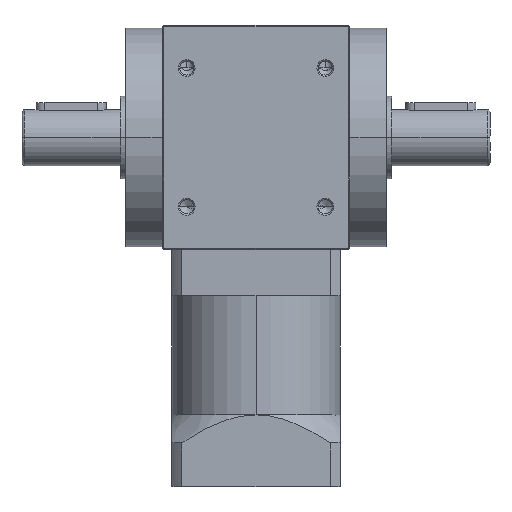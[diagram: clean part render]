
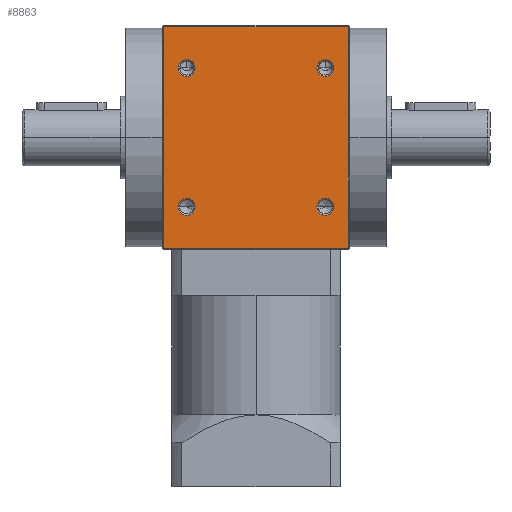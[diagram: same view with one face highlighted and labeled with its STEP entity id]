
A CAD part, top view. The second image highlights one B-rep face of the part: STEP entity #8863.
In plain terms, the highlighted planar face has unit normal (0, 0, 1).
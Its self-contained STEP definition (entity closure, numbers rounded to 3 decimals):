
#185 = EDGE_LOOP ( 'NONE', ( #4110, #7010 ) ) ;
#260 = ORIENTED_EDGE ( 'NONE', *, *, #1578, .F. ) ;
#367 = FACE_BOUND ( 'NONE', #7555, .T. ) ;
#398 = CARTESIAN_POINT ( 'NONE',  ( 24.75, 24.75, 40. ) ) ;
#512 = AXIS2_PLACEMENT_3D ( 'NONE', #3569, #8914, #4349 ) ;
#673 = CARTESIAN_POINT ( 'NONE',  ( -21.75, 24.75, 40. ) ) ;
#807 = AXIS2_PLACEMENT_3D ( 'NONE', #3105, #2394, #5803 ) ;
#865 = DIRECTION ( 'NONE',  ( 1., 0., 0. ) ) ;
#868 = EDGE_CURVE ( 'NONE', #7225, #5175, #1045, .T. ) ;
#884 = VERTEX_POINT ( 'NONE', #7356 ) ;
#898 = ORIENTED_EDGE ( 'NONE', *, *, #868, .F. ) ;
#919 = EDGE_LOOP ( 'NONE', ( #4624, #4115 ) ) ;
#1045 = CIRCLE ( 'NONE', #4986, 3. ) ;
#1155 = DIRECTION ( 'NONE',  ( 1., 0., 0. ) ) ;
#1185 = CARTESIAN_POINT ( 'NONE',  ( 33.5, 40., 40. ) ) ;
#1329 = EDGE_CURVE ( 'NONE', #9575, #5781, #6537, .T. ) ;
#1477 = DIRECTION ( 'NONE',  ( -1., 0., 0. ) ) ;
#1518 = CARTESIAN_POINT ( 'NONE',  ( 24.75, 24.75, 40. ) ) ;
#1578 = EDGE_CURVE ( 'NONE', #5232, #6303, #2733, .T. ) ;
#1893 = EDGE_CURVE ( 'NONE', #5781, #9575, #8335, .T. ) ;
#1964 = DIRECTION ( 'NONE',  ( -1., 0., 0. ) ) ;
#2025 = ORIENTED_EDGE ( 'NONE', *, *, #3774, .F. ) ;
#2058 = ORIENTED_EDGE ( 'NONE', *, *, #5536, .F. ) ;
#2271 = CARTESIAN_POINT ( 'NONE',  ( 27.75, 24.75, 40. ) ) ;
#2286 = DIRECTION ( 'NONE',  ( 1., 0., 0. ) ) ;
#2347 = ORIENTED_EDGE ( 'NONE', *, *, #7696, .F. ) ;
#2378 = CARTESIAN_POINT ( 'NONE',  ( 33.5, 39.5, 40. ) ) ;
#2394 = DIRECTION ( 'NONE',  ( 0., 0., 1. ) ) ;
#2396 = FACE_BOUND ( 'NONE', #185, .T. ) ;
#2685 = EDGE_CURVE ( 'NONE', #7770, #8493, #6600, .T. ) ;
#2733 = CIRCLE ( 'NONE', #6590, 3. ) ;
#2872 = VECTOR ( 'NONE', #4108, 1000. ) ;
#2920 = CARTESIAN_POINT ( 'NONE',  ( -24.75, 24.75, 40. ) ) ;
#2932 = VECTOR ( 'NONE', #1477, 1000. ) ;
#2955 = DIRECTION ( 'NONE',  ( 1., 0., 0. ) ) ;
#2960 = DIRECTION ( 'NONE',  ( 1., 0., 0. ) ) ;
#3105 = CARTESIAN_POINT ( 'NONE',  ( -24.75, -24.75, 40. ) ) ;
#3225 = CARTESIAN_POINT ( 'NONE',  ( 21.75, 24.75, 40. ) ) ;
#3328 = CARTESIAN_POINT ( 'NONE',  ( 33., 40., 40. ) ) ;
#3569 = CARTESIAN_POINT ( 'NONE',  ( 24.75, -24.75, 40. ) ) ;
#3641 = AXIS2_PLACEMENT_3D ( 'NONE', #8001, #7947, #7906 ) ;
#3680 = VECTOR ( 'NONE', #865, 1000. ) ;
#3723 = CARTESIAN_POINT ( 'NONE',  ( 24.75, -24.75, 40. ) ) ;
#3769 = CARTESIAN_POINT ( 'NONE',  ( -24.75, 24.75, 40. ) ) ;
#3774 = EDGE_CURVE ( 'NONE', #9108, #884, #6709, .T. ) ;
#4108 = DIRECTION ( 'NONE',  ( 0., -1., 0. ) ) ;
#4110 = ORIENTED_EDGE ( 'NONE', *, *, #7950, .F. ) ;
#4115 = ORIENTED_EDGE ( 'NONE', *, *, #1893, .F. ) ;
#4197 = FACE_BOUND ( 'NONE', #919, .T. ) ;
#4333 = ORIENTED_EDGE ( 'NONE', *, *, #7197, .F. ) ;
#4349 = DIRECTION ( 'NONE',  ( 1., 0., 0. ) ) ;
#4441 = FACE_OUTER_BOUND ( 'NONE', #9360, .T. ) ;
#4541 = DIRECTION ( 'NONE',  ( 1., 0., 0. ) ) ;
#4624 = ORIENTED_EDGE ( 'NONE', *, *, #1329, .F. ) ;
#4635 = CIRCLE ( 'NONE', #4878, 3. ) ;
#4878 = AXIS2_PLACEMENT_3D ( 'NONE', #398, #5763, #1155 ) ;
#4907 = VERTEX_POINT ( 'NONE', #6971 ) ;
#4915 = LINE ( 'NONE', #3328, #2872 ) ;
#4986 = AXIS2_PLACEMENT_3D ( 'NONE', #2920, #8694, #2955 ) ;
#5122 = CARTESIAN_POINT ( 'NONE',  ( -21.75, -24.75, 40. ) ) ;
#5175 = VERTEX_POINT ( 'NONE', #7305 ) ;
#5232 = VERTEX_POINT ( 'NONE', #7396 ) ;
#5246 = ORIENTED_EDGE ( 'NONE', *, *, #9549, .F. ) ;
#5536 = EDGE_CURVE ( 'NONE', #6245, #4907, #4915, .T. ) ;
#5751 = PLANE ( 'NONE',  #6095 ) ;
#5763 = DIRECTION ( 'NONE',  ( 0., 0., 1. ) ) ;
#5774 = EDGE_LOOP ( 'NONE', ( #260, #5246 ) ) ;
#5781 = VERTEX_POINT ( 'NONE', #5867 ) ;
#5803 = DIRECTION ( 'NONE',  ( 1., 0., 0. ) ) ;
#5821 = CARTESIAN_POINT ( 'NONE',  ( 33., 39.5, 40. ) ) ;
#5867 = CARTESIAN_POINT ( 'NONE',  ( -27.75, -24.75, 40. ) ) ;
#5890 = CARTESIAN_POINT ( 'NONE',  ( 21.75, -24.75, 40. ) ) ;
#6051 = CARTESIAN_POINT ( 'NONE',  ( 33.5, -39.5, 40. ) ) ;
#6095 = AXIS2_PLACEMENT_3D ( 'NONE', #1185, #6549, #1964 ) ;
#6208 = CARTESIAN_POINT ( 'NONE',  ( -33., -39.5, 40. ) ) ;
#6236 = FACE_BOUND ( 'NONE', #5774, .T. ) ;
#6245 = VERTEX_POINT ( 'NONE', #5821 ) ;
#6303 = VERTEX_POINT ( 'NONE', #5890 ) ;
#6537 = CIRCLE ( 'NONE', #807, 3. ) ;
#6549 = DIRECTION ( 'NONE',  ( 0., 0., -1. ) ) ;
#6590 = AXIS2_PLACEMENT_3D ( 'NONE', #3723, #8308, #2960 ) ;
#6600 = CIRCLE ( 'NONE', #9107, 3. ) ;
#6709 = LINE ( 'NONE', #7326, #8695 ) ;
#6891 = DIRECTION ( 'NONE',  ( 0., 0., 1. ) ) ;
#6971 = CARTESIAN_POINT ( 'NONE',  ( 33., -39.5, 40. ) ) ;
#7010 = ORIENTED_EDGE ( 'NONE', *, *, #2685, .F. ) ;
#7197 = EDGE_CURVE ( 'NONE', #5175, #7225, #7357, .T. ) ;
#7225 = VERTEX_POINT ( 'NONE', #673 ) ;
#7305 = CARTESIAN_POINT ( 'NONE',  ( -27.75, 24.75, 40. ) ) ;
#7326 = CARTESIAN_POINT ( 'NONE',  ( -33., 40., 40. ) ) ;
#7356 = CARTESIAN_POINT ( 'NONE',  ( -33., 39.5, 40. ) ) ;
#7357 = CIRCLE ( 'NONE', #9268, 3. ) ;
#7396 = CARTESIAN_POINT ( 'NONE',  ( 27.75, -24.75, 40. ) ) ;
#7555 = EDGE_LOOP ( 'NONE', ( #898, #4333 ) ) ;
#7696 = EDGE_CURVE ( 'NONE', #884, #6245, #9527, .T. ) ;
#7770 = VERTEX_POINT ( 'NONE', #3225 ) ;
#7906 = DIRECTION ( 'NONE',  ( 1., 0., 0. ) ) ;
#7947 = DIRECTION ( 'NONE',  ( 0., 0., 1. ) ) ;
#7950 = EDGE_CURVE ( 'NONE', #8493, #7770, #4635, .T. ) ;
#8001 = CARTESIAN_POINT ( 'NONE',  ( -24.75, -24.75, 40. ) ) ;
#8098 = ORIENTED_EDGE ( 'NONE', *, *, #8417, .F. ) ;
#8252 = CIRCLE ( 'NONE', #512, 3. ) ;
#8308 = DIRECTION ( 'NONE',  ( 0., 0., 1. ) ) ;
#8335 = CIRCLE ( 'NONE', #3641, 3. ) ;
#8417 = EDGE_CURVE ( 'NONE', #4907, #9108, #9019, .T. ) ;
#8493 = VERTEX_POINT ( 'NONE', #2271 ) ;
#8694 = DIRECTION ( 'NONE',  ( 0., 0., 1. ) ) ;
#8695 = VECTOR ( 'NONE', #8823, 1000. ) ;
#8823 = DIRECTION ( 'NONE',  ( 0., 1., 0. ) ) ;
#8863 = ADVANCED_FACE ( 'NONE', ( #4441, #367, #2396, #6236, #4197 ), #5751, .F. ) ;
#8914 = DIRECTION ( 'NONE',  ( 0., 0., 1. ) ) ;
#9019 = LINE ( 'NONE', #6051, #2932 ) ;
#9102 = DIRECTION ( 'NONE',  ( 0., 0., 1. ) ) ;
#9107 = AXIS2_PLACEMENT_3D ( 'NONE', #1518, #6891, #2286 ) ;
#9108 = VERTEX_POINT ( 'NONE', #6208 ) ;
#9268 = AXIS2_PLACEMENT_3D ( 'NONE', #3769, #9102, #4541 ) ;
#9360 = EDGE_LOOP ( 'NONE', ( #2058, #2347, #2025, #8098 ) ) ;
#9527 = LINE ( 'NONE', #2378, #3680 ) ;
#9549 = EDGE_CURVE ( 'NONE', #6303, #5232, #8252, .T. ) ;
#9575 = VERTEX_POINT ( 'NONE', #5122 ) ;
